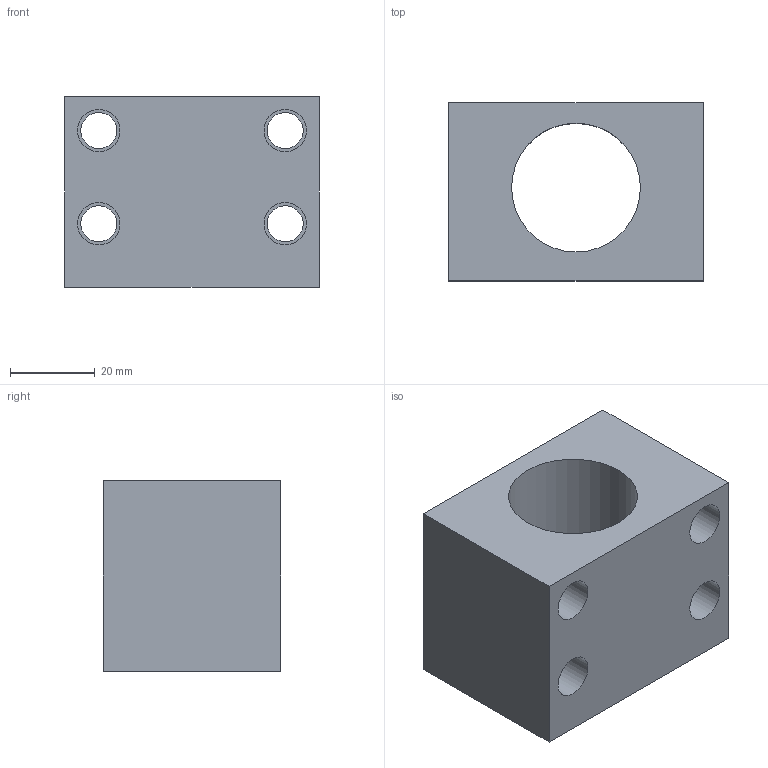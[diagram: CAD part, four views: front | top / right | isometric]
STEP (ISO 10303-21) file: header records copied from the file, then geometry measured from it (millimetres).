
FILE_DESCRIPTION(/* description */ (''),/* implementation_level */ '2;1');
FILE_NAME(/* name */ 'NH16A.stp',/* time_stamp */ '2017-01-13T08:50:19+08:00',/* author */ (''),/* organization */ (''),/* preprocessor_version */ 'ST-DEVELOPER v15',/* originating_system */ 'SIEMENS PLM Software NX 8.5',/* authorisation */ '');
FILE_SCHEMA (('AUTOMOTIVE_DESIGN { 1 0 10303 214 3 1 1 1 }'));
Length unit declared in the file: millimetre
Products named in the file (1): Admi116477DDoz91
Bounding box: 60 x 42 x 45 mm (x, y, z)
Volume: 67080.3 mm3; surface area: 22288.3 mm2
Topology: 1 solids, 1 shells, 43 faces, 92 edges, 63 vertices
Faces by surface type: cylinder 21, plane 18, cone 4
Full cylindrical faces by diameter (mm): 3.3 x4, 4 x4, 8.5 x4, 10 x4, 14 x4, 30.4 x1
Entity records: 1023 total; most frequent: DIRECTION 186, CARTESIAN_POINT 153, ORIENTED_EDGE 108, FACE_BOUND 92, EDGE_LOOP 90, AXIS2_PLACEMENT_3D 87, VERTEX_POINT 54, EDGE_CURVE 54
